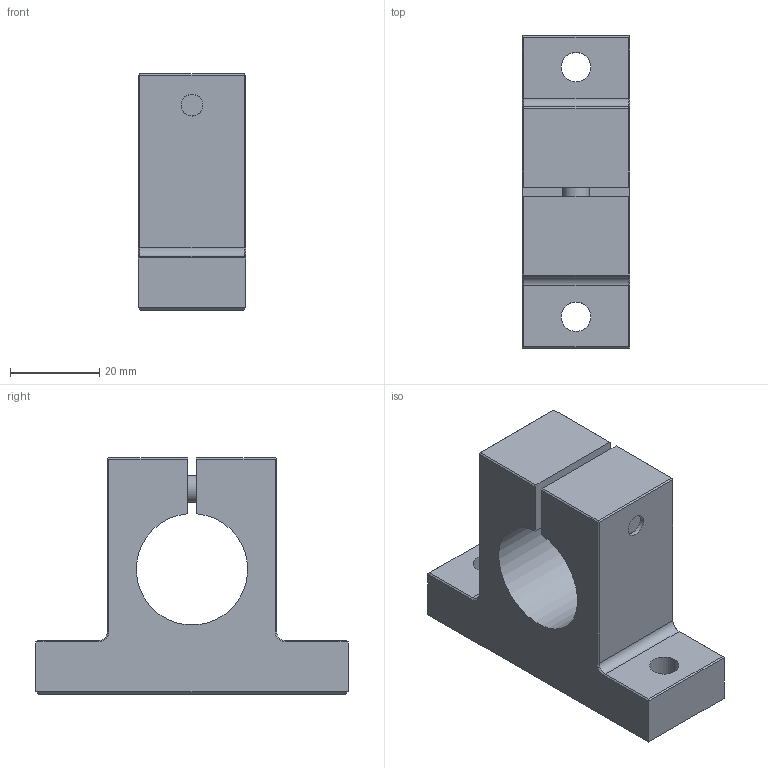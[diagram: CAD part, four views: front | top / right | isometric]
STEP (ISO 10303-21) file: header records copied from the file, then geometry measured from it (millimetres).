
FILE_DESCRIPTION((''),'2;1');
FILE_NAME('D:\製品 (図面)\カタログ用3D\シャフトブロック関連\STEP形式\SHA\SHA25.stp','2010-06-01T16:38:08',('Tsuchiya'),(''),'Autodesk Inventor 10','Autodesk Inventor 10','');
FILE_SCHEMA(('AUTOMOTIVE_DESIGN { 1 0 10303 214 1 1 1 1 }'));
Length unit declared in the file: millimetre
Products named in the file (1): SHA25
Bounding box: 24 x 70 x 53 mm (x, y, z)
Volume: 44103.6 mm3; surface area: 13198 mm2
Topology: 1 solids, 1 shells, 60 faces, 147 edges, 93 vertices
Faces by surface type: plane 42, cylinder 7, cone 6, bspline 4, torus 1
Full cylindrical faces by diameter (mm): 6 x1, 6.6 x2, 10 x1
Entity records: 1710 total; most frequent: CARTESIAN_POINT 347, DIRECTION 266, ORIENTED_EDGE 264, EDGE_CURVE 132, VECTOR 100, LINE 100, VERTEX_POINT 88, AXIS2_PLACEMENT_3D 83
